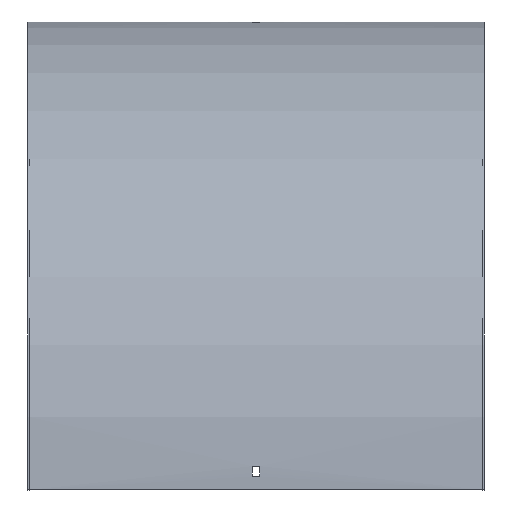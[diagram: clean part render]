
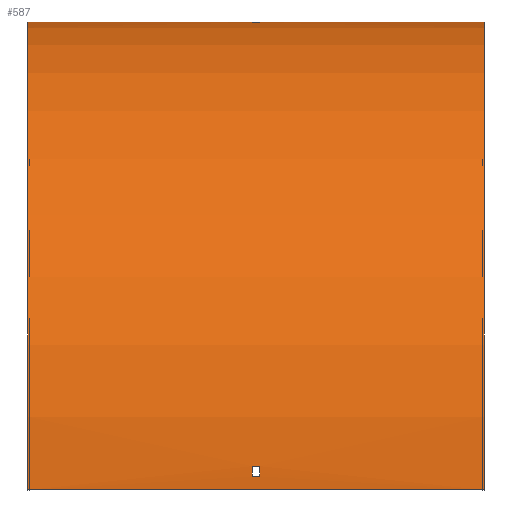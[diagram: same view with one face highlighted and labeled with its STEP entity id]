
A CAD part, top view. The second image highlights one B-rep face of the part: STEP entity #587.
In plain terms, the highlighted cylindrical face has radius 414 mm (diameter 828 mm), a partial arc.
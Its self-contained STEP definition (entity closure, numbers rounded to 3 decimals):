
#5 = CARTESIAN_POINT ( 'NONE',  ( 201.5, 0., 0. ) ) ;
#7 = CIRCLE ( 'NONE', #227, 414. ) ;
#9 = ORIENTED_EDGE ( 'NONE', *, *, #111, .T. ) ;
#17 = ORIENTED_EDGE ( 'NONE', *, *, #140, .F. ) ;
#19 = CARTESIAN_POINT ( 'NONE',  ( 3.25, -414., 0. ) ) ;
#27 = EDGE_CURVE ( 'NONE', #584, #142, #62, .T. ) ;
#33 = DIRECTION ( 'NONE',  ( 1., 0., 0. ) ) ;
#34 = DIRECTION ( 'NONE',  ( -1., 0., 0. ) ) ;
#40 = VECTOR ( 'NONE', #389, 1000. ) ;
#42 = CARTESIAN_POINT ( 'NONE',  ( 3.25, -0.174, 12. ) ) ;
#47 = ORIENTED_EDGE ( 'NONE', *, *, #358, .T. ) ;
#55 = EDGE_LOOP ( 'NONE', ( #9, #491, #281, #47 ) ) ;
#62 = LINE ( 'NONE', #245, #141 ) ;
#65 = CARTESIAN_POINT ( 'NONE',  ( 201.5, -0.174, 12. ) ) ;
#78 = VERTEX_POINT ( 'NONE', #538 ) ;
#83 = CARTESIAN_POINT ( 'NONE',  ( -201.5, -414., 0. ) ) ;
#84 = DIRECTION ( 'NONE',  ( 1., 0., 0. ) ) ;
#87 = DIRECTION ( 'NONE',  ( -1., 0., 0. ) ) ;
#97 = CARTESIAN_POINT ( 'NONE',  ( 201.5, -414., 0. ) ) ;
#98 = VERTEX_POINT ( 'NONE', #495 ) ;
#103 = DIRECTION ( 'NONE',  ( 0., 0., -1. ) ) ;
#106 = VERTEX_POINT ( 'NONE', #497 ) ;
#111 = EDGE_CURVE ( 'NONE', #98, #347, #313, .T. ) ;
#112 = CARTESIAN_POINT ( 'NONE',  ( 201.5, 0., 0. ) ) ;
#115 = DIRECTION ( 'NONE',  ( 0., 0., -1. ) ) ;
#116 = ORIENTED_EDGE ( 'NONE', *, *, #355, .F. ) ;
#131 = DIRECTION ( 'NONE',  ( -1., 0., 0. ) ) ;
#133 = FACE_BOUND ( 'NONE', #288, .T. ) ;
#140 = EDGE_CURVE ( 'NONE', #180, #106, #194, .T. ) ;
#141 = VECTOR ( 'NONE', #430, 1000. ) ;
#142 = VERTEX_POINT ( 'NONE', #282 ) ;
#157 = DIRECTION ( 'NONE',  ( 1., 0., 0. ) ) ;
#180 = VERTEX_POINT ( 'NONE', #580 ) ;
#188 = FACE_BOUND ( 'NONE', #55, .T. ) ;
#194 = CIRCLE ( 'NONE', #277, 414. ) ;
#197 = EDGE_CURVE ( 'NONE', #604, #595, #483, .T. ) ;
#212 = EDGE_CURVE ( 'NONE', #78, #376, #573, .T. ) ;
#219 = CARTESIAN_POINT ( 'NONE',  ( -3.25, -402., 413.826 ) ) ;
#227 = AXIS2_PLACEMENT_3D ( 'NONE', #19, #398, #115 ) ;
#231 = CARTESIAN_POINT ( 'NONE',  ( -3.25, -414., 0. ) ) ;
#234 = CARTESIAN_POINT ( 'NONE',  ( 201.5, -414., 0. ) ) ;
#235 = VECTOR ( 'NONE', #87, 1000. ) ;
#236 = CIRCLE ( 'NONE', #265, 414. ) ;
#237 = CARTESIAN_POINT ( 'NONE',  ( 201.5, -402., 413.826 ) ) ;
#243 = ORIENTED_EDGE ( 'NONE', *, *, #392, .F. ) ;
#245 = CARTESIAN_POINT ( 'NONE',  ( 201.5, -414., 414. ) ) ;
#252 = ORIENTED_EDGE ( 'NONE', *, *, #27, .F. ) ;
#265 = AXIS2_PLACEMENT_3D ( 'NONE', #231, #507, #598 ) ;
#271 = LINE ( 'NONE', #237, #360 ) ;
#274 = CARTESIAN_POINT ( 'NONE',  ( -201.5, 0., 0. ) ) ;
#277 = AXIS2_PLACEMENT_3D ( 'NONE', #515, #326, #603 ) ;
#281 = ORIENTED_EDGE ( 'NONE', *, *, #212, .T. ) ;
#282 = CARTESIAN_POINT ( 'NONE',  ( -201.5, -414., 414. ) ) ;
#288 = EDGE_LOOP ( 'NONE', ( #600, #116, #17, #337 ) ) ;
#289 = VECTOR ( 'NONE', #157, 1000. ) ;
#307 = EDGE_CURVE ( 'NONE', #595, #142, #369, .T. ) ;
#313 = LINE ( 'NONE', #499, #235 ) ;
#326 = DIRECTION ( 'NONE',  ( -1., 0., 0. ) ) ;
#335 = FACE_OUTER_BOUND ( 'NONE', #381, .T. ) ;
#337 = ORIENTED_EDGE ( 'NONE', *, *, #544, .F. ) ;
#339 = AXIS2_PLACEMENT_3D ( 'NONE', #97, #34, #416 ) ;
#347 = VERTEX_POINT ( 'NONE', #596 ) ;
#355 = EDGE_CURVE ( 'NONE', #106, #395, #368, .T. ) ;
#358 = EDGE_CURVE ( 'NONE', #376, #98, #7, .T. ) ;
#360 = VECTOR ( 'NONE', #380, 1000. ) ;
#367 = CIRCLE ( 'NONE', #378, 414. ) ;
#368 = LINE ( 'NONE', #550, #457 ) ;
#369 = CIRCLE ( 'NONE', #446, 414. ) ;
#373 = DIRECTION ( 'NONE',  ( 0., 1., 0. ) ) ;
#376 = VERTEX_POINT ( 'NONE', #42 ) ;
#378 = AXIS2_PLACEMENT_3D ( 'NONE', #234, #382, #103 ) ;
#380 = DIRECTION ( 'NONE',  ( 1., 0., 0. ) ) ;
#381 = EDGE_LOOP ( 'NONE', ( #517, #252, #243, #423 ) ) ;
#382 = DIRECTION ( 'NONE',  ( 1., 0., 0. ) ) ;
#389 = DIRECTION ( 'NONE',  ( -1., 0., 0. ) ) ;
#392 = EDGE_CURVE ( 'NONE', #604, #584, #367, .T. ) ;
#395 = VERTEX_POINT ( 'NONE', #477 ) ;
#398 = DIRECTION ( 'NONE',  ( 1., 0., 0. ) ) ;
#407 = CARTESIAN_POINT ( 'NONE',  ( 201.5, -414., 414. ) ) ;
#410 = CARTESIAN_POINT ( 'NONE',  ( -3.25, -414., 0. ) ) ;
#416 = DIRECTION ( 'NONE',  ( 0., 0., 1. ) ) ;
#423 = ORIENTED_EDGE ( 'NONE', *, *, #197, .T. ) ;
#430 = DIRECTION ( 'NONE',  ( -1., 0., 0. ) ) ;
#446 = AXIS2_PLACEMENT_3D ( 'NONE', #83, #33, #592 ) ;
#453 = VERTEX_POINT ( 'NONE', #219 ) ;
#457 = VECTOR ( 'NONE', #131, 1000. ) ;
#477 = CARTESIAN_POINT ( 'NONE',  ( -3.25, -393., 413.467 ) ) ;
#483 = LINE ( 'NONE', #112, #40 ) ;
#491 = ORIENTED_EDGE ( 'NONE', *, *, #494, .T. ) ;
#494 = EDGE_CURVE ( 'NONE', #347, #78, #236, .T. ) ;
#495 = CARTESIAN_POINT ( 'NONE',  ( 3.25, -0.533, 21. ) ) ;
#497 = CARTESIAN_POINT ( 'NONE',  ( 3.25, -393., 413.467 ) ) ;
#499 = CARTESIAN_POINT ( 'NONE',  ( 201.5, -0.533, 21. ) ) ;
#506 = CIRCLE ( 'NONE', #537, 414. ) ;
#507 = DIRECTION ( 'NONE',  ( -1., 0., 0. ) ) ;
#515 = CARTESIAN_POINT ( 'NONE',  ( 3.25, -414., 0. ) ) ;
#517 = ORIENTED_EDGE ( 'NONE', *, *, #307, .T. ) ;
#521 = CYLINDRICAL_SURFACE ( 'NONE', #339, 414. ) ;
#530 = EDGE_CURVE ( 'NONE', #395, #453, #506, .T. ) ;
#537 = AXIS2_PLACEMENT_3D ( 'NONE', #410, #84, #373 ) ;
#538 = CARTESIAN_POINT ( 'NONE',  ( -3.25, -0.174, 12. ) ) ;
#544 = EDGE_CURVE ( 'NONE', #453, #180, #271, .T. ) ;
#550 = CARTESIAN_POINT ( 'NONE',  ( 201.5, -393., 413.467 ) ) ;
#573 = LINE ( 'NONE', #65, #289 ) ;
#580 = CARTESIAN_POINT ( 'NONE',  ( 3.25, -402., 413.826 ) ) ;
#584 = VERTEX_POINT ( 'NONE', #407 ) ;
#587 = ADVANCED_FACE ( 'NONE', ( #335, #188, #133 ), #521, .T. ) ;
#592 = DIRECTION ( 'NONE',  ( 0., 0., -1. ) ) ;
#595 = VERTEX_POINT ( 'NONE', #274 ) ;
#596 = CARTESIAN_POINT ( 'NONE',  ( -3.25, -0.533, 21. ) ) ;
#598 = DIRECTION ( 'NONE',  ( 0., 0., 1. ) ) ;
#600 = ORIENTED_EDGE ( 'NONE', *, *, #530, .F. ) ;
#603 = DIRECTION ( 'NONE',  ( 0., 0., 1. ) ) ;
#604 = VERTEX_POINT ( 'NONE', #5 ) ;
